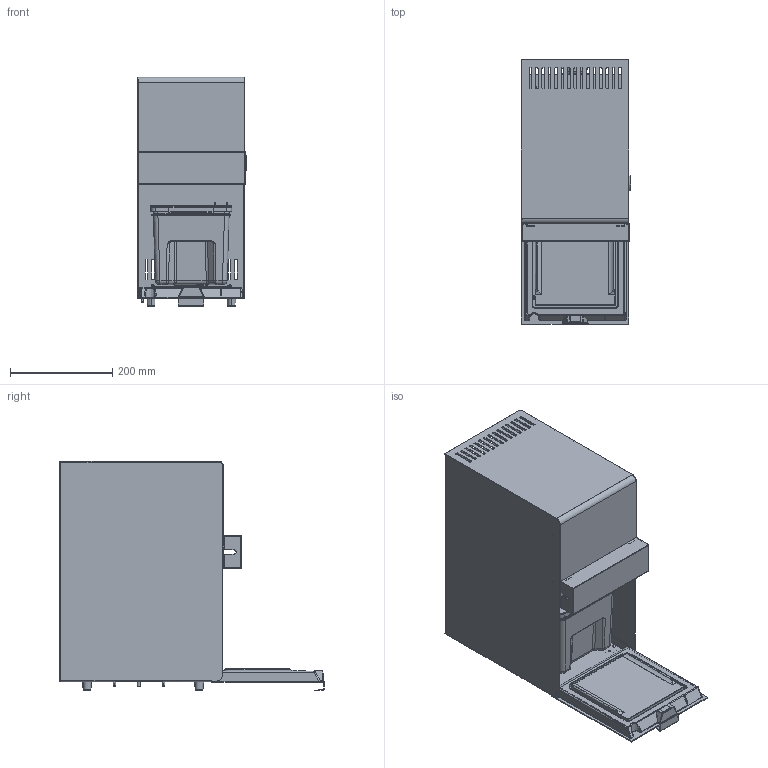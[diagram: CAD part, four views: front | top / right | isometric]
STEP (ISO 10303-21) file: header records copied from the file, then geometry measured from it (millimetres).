
FILE_DESCRIPTION (( 'STEP AP214' ), '1' );
FILE_NAME ('Compressor_Cooler_Pro.STEP', '2012-12-06T12:06:33', ( '' ), ( '' ), 'SwSTEP 2.0', 'SolidWorks 2012', '' );
FILE_SCHEMA (( 'AUTOMOTIVE_DESIGN' ));
Products named in the file (18): 0275N015-00-00_Compressor_Cooler_Pro.sldasm-Part-237; 0275N015-00-00_Compressor_Cooler_Pro.sldasm-Part-236; 0275N015-00-00_Compressor_Cooler_Pro.sldasm-Part-222; 0275N015-00-00_Compressor_Cooler_Pro.sldasm-Part-217; 0275N015-00-00_Compressor_Cooler_Pro.sldasm-Part-213; 16E7; 0275N015-00-00_Compressor_Cooler_Pro.sldasm-Part-212; 0275N015-00-00_Compressor_Cooler_Pro.sldasm-Part-211; 0275N015-00-00_Compressor_Cooler_Pro.sldasm-Part-210; 0275N015-00-00_Compressor_Cooler_Pro.sldasm-Part-208; 0275N015-00-00_Compressor_Cooler_Pro.sldasm-Part-204; 0275N015-00-00_Compressor_Cooler_Pro.sldasm-Part-199; 0275N015-00-00_Compressor_Cooler_Pro.sldasm-Part-198; 0275N015-00-00_Compressor_Cooler_Pro.sldasm-Part-197; 0275N015-00-00_Compressor_Cooler_Pro.sldasm-Part-4; 0275N015-00-00_Compressor_Cooler_Pro.sldasm-Part-3; 0275N015-00-00_Compressor_Cooler_Pro.sldasm-Part-2; Compressor_Cooler_Pro
Assembly tree (20 placements, depth 2):
  Compressor_Cooler_Pro
    0275N015-00-00_Compressor_Cooler_Pro.sldasm-Part-2
    0275N015-00-00_Compressor_Cooler_Pro.sldasm-Part-3
    0275N015-00-00_Compressor_Cooler_Pro.sldasm-Part-4
    0275N015-00-00_Compressor_Cooler_Pro.sldasm-Part-197
    0275N015-00-00_Compressor_Cooler_Pro.sldasm-Part-198
    0275N015-00-00_Compressor_Cooler_Pro.sldasm-Part-199
    0275N015-00-00_Compressor_Cooler_Pro.sldasm-Part-204  x4
    0275N015-00-00_Compressor_Cooler_Pro.sldasm-Part-208
    0275N015-00-00_Compressor_Cooler_Pro.sldasm-Part-210
    0275N015-00-00_Compressor_Cooler_Pro.sldasm-Part-211
    0275N015-00-00_Compressor_Cooler_Pro.sldasm-Part-212
    16E7
    0275N015-00-00_Compressor_Cooler_Pro.sldasm-Part-213
    0275N015-00-00_Compressor_Cooler_Pro.sldasm-Part-217
    0275N015-00-00_Compressor_Cooler_Pro.sldasm-Part-222
    0275N015-00-00_Compressor_Cooler_Pro.sldasm-Part-236
    0275N015-00-00_Compressor_Cooler_Pro.sldasm-Part-237
Bounding box: 213.1 x 516.3 x 448.48 mm (x, y, z)
Volume: 1474428.2 mm3; surface area: 1860937.3 mm2
Topology: 20 solids, 20 shells, 2456 faces, 6537 edges, 4092 vertices
Faces by surface type: cylinder 1171, plane 889, bspline 184, torus 97, cone 90, sphere 25
Entity records: 102618 total; most frequent: CARTESIAN_POINT 44711, ORIENTED_EDGE 12788, DIRECTION 11242, EDGE_CURVE 6394, VERTEX_POINT 4046, AXIS2_PLACEMENT_3D 3894, VECTOR 3454, LINE 3454
